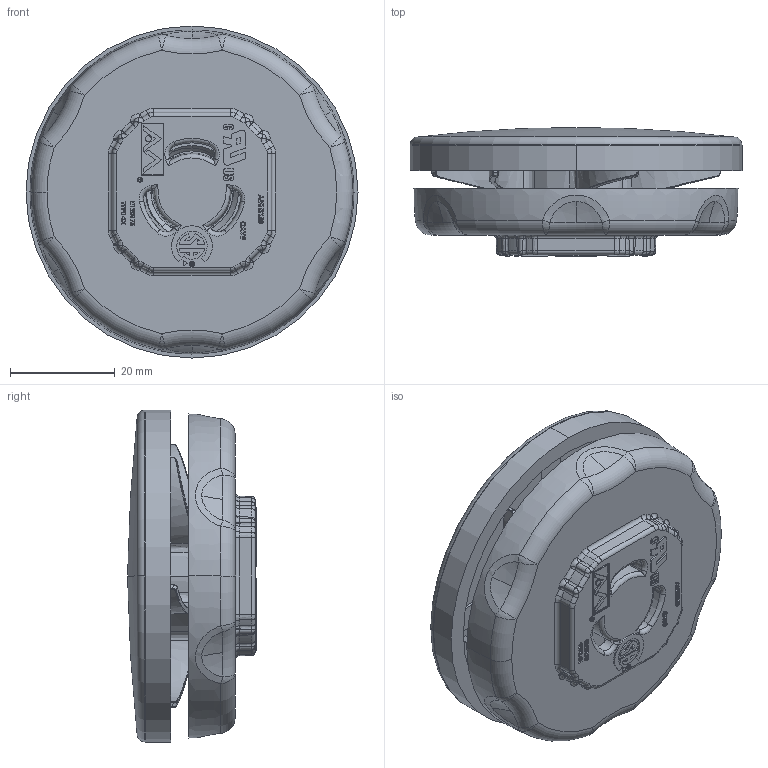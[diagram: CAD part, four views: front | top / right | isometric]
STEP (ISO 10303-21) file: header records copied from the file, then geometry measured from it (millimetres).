
FILE_DESCRIPTION (( 'STEP AP203' ), '1' );
FILE_NAME ('HP150PCLG.step', '2014-09-30T12:03:29', ( '' ), ( '' ), 'SwSTEP 2.0', 'SolidWorks 2014', '' );
FILE_SCHEMA (( 'CONFIG_CONTROL_DESIGN' ));
Length unit declared in the file: inch
Products named in the file (5): WHS150PLG; 70-GSKTHS150; WHS150NUT; AMHS150; HP150PCLG
Assembly tree (4 placements, depth 3):
  HP150PCLG
    AMHS150
      WHS150PLG
      70-GSKTHS150
      WHS150NUT
Bounding box: 63.37 x 24.59 x 63.37 mm (x, y, z)
Volume: 30080.3 mm3; surface area: 22631.1 mm2
Topology: 3 solids, 3 shells, 1178 faces, 2991 edges, 1816 vertices
Faces by surface type: plane 423, bspline 422, torus 113, cylinder 79, sphere 78, cone 63
Entity records: 56111 total; most frequent: CARTESIAN_POINT 30597, ORIENTED_EDGE 5860, DIRECTION 4224, EDGE_CURVE 2930, VERTEX_POINT 1816, AXIS2_PLACEMENT_3D 1506, EDGE_LOOP 1244, LINE 1212
